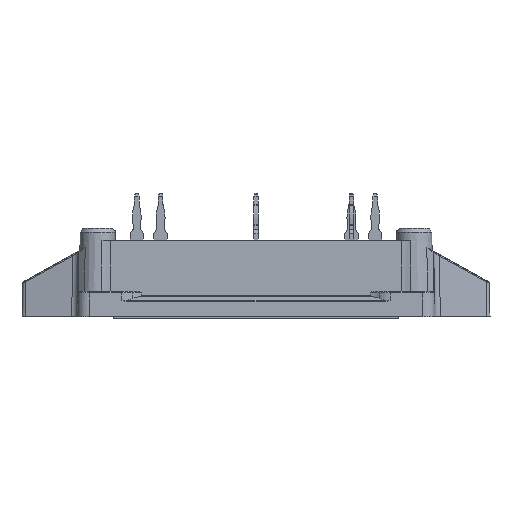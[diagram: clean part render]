
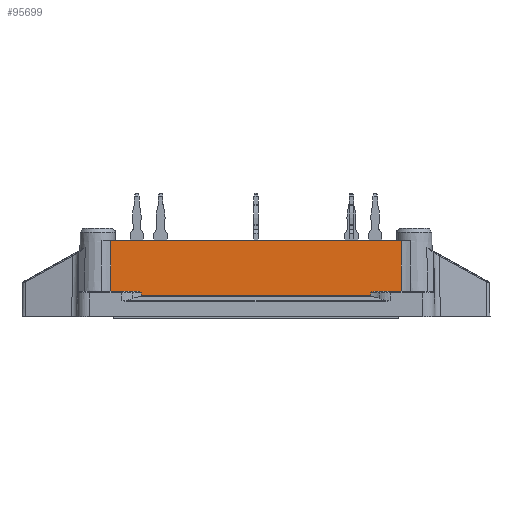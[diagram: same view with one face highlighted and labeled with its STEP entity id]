
A CAD part, front view. The second image highlights one B-rep face of the part: STEP entity #95699.
In plain terms, the highlighted planar face has unit normal (0, -1, 0.018).
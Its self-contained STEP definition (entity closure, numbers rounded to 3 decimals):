
#5358=B_SPLINE_CURVE_WITH_KNOTS('',3,(#132635,#132636,#132637,#132638),
 .UNSPECIFIED.,.F.,.F.,(4,4),(0.001,0.001),
 .UNSPECIFIED.);
#5359=B_SPLINE_CURVE_WITH_KNOTS('',3,(#132643,#132644,#132645,#132646),
 .UNSPECIFIED.,.F.,.F.,(4,4),(0.,0.001),
 .UNSPECIFIED.);
#5360=B_SPLINE_CURVE_WITH_KNOTS('',3,(#132648,#132649,#132650,#132651,#132652,
#132653,#132654,#132655),.UNSPECIFIED.,.F.,.F.,(4,1,1,1,1,4),(0.,
0.,0.,0.,0.001,
0.001),.UNSPECIFIED.);
#5361=B_SPLINE_CURVE_WITH_KNOTS('',3,(#132659,#132660,#132661,#132662),
 .UNSPECIFIED.,.F.,.F.,(4,4),(0.,0.007),.UNSPECIFIED.);
#5362=B_SPLINE_CURVE_WITH_KNOTS('',3,(#132663,#132664,#132665,#132666),
 .UNSPECIFIED.,.F.,.F.,(4,4),(0.,0.007),
 .UNSPECIFIED.);
#5363=B_SPLINE_CURVE_WITH_KNOTS('',3,(#132670,#132671,#132672,#132673,#132674,
#132675,#132676),.UNSPECIFIED.,.F.,.F.,(4,1,1,1,4),(0.,0.,
0.001,0.001,0.001),
 .UNSPECIFIED.);
#7544=ORIENTED_EDGE('',*,*,#27837,.F.);
#7545=ORIENTED_EDGE('',*,*,#27838,.T.);
#7546=ORIENTED_EDGE('',*,*,#27839,.F.);
#7547=ORIENTED_EDGE('',*,*,#27840,.T.);
#7548=ORIENTED_EDGE('',*,*,#27841,.T.);
#7549=ORIENTED_EDGE('',*,*,#27842,.T.);
#7550=ORIENTED_EDGE('',*,*,#26887,.F.);
#7551=ORIENTED_EDGE('',*,*,#27843,.T.);
#7552=ORIENTED_EDGE('',*,*,#27844,.F.);
#7553=ORIENTED_EDGE('',*,*,#27845,.T.);
#26887=EDGE_CURVE('',#37079,#37080,#42864,.T.);
#27837=EDGE_CURVE('',#37946,#37947,#5358,.T.);
#27838=EDGE_CURVE('',#37946,#37948,#43294,.T.);
#27839=EDGE_CURVE('',#37949,#37948,#5359,.T.);
#27840=EDGE_CURVE('',#37949,#37950,#5360,.T.);
#27841=EDGE_CURVE('',#37950,#37951,#43295,.T.);
#27842=EDGE_CURVE('',#37951,#37080,#5361,.T.);
#27843=EDGE_CURVE('',#37079,#37952,#5362,.T.);
#27844=EDGE_CURVE('',#37953,#37952,#43296,.T.);
#27845=EDGE_CURVE('',#37953,#37947,#5363,.T.);
#37079=VERTEX_POINT('',#130292);
#37080=VERTEX_POINT('',#130294);
#37946=VERTEX_POINT('',#132639);
#37947=VERTEX_POINT('',#132640);
#37948=VERTEX_POINT('',#132642);
#37949=VERTEX_POINT('',#132647);
#37950=VERTEX_POINT('',#132656);
#37951=VERTEX_POINT('',#132658);
#37952=VERTEX_POINT('',#132667);
#37953=VERTEX_POINT('',#132669);
#42864=LINE('',#130293,#49622);
#43294=LINE('',#132641,#50052);
#43295=LINE('',#132657,#50053);
#43296=LINE('',#132668,#50054);
#49622=VECTOR('',#108511,1000.);
#50052=VECTOR('',#109947,1000.);
#50053=VECTOR('',#109948,1000.);
#50054=VECTOR('',#109949,1000.);
#56144=EDGE_LOOP('',(#7544,#7545,#7546,#7547,#7548,#7549,#7550,#7551,#7552,
#7553));
#60510=FACE_BOUND('',#56144,.T.);
#64663=PLANE('',#100751);
#95699=ADVANCED_FACE('',(#60510),#64663,.T.);
#100751=AXIS2_PLACEMENT_3D('',#132634,#109945,#109946);
#108511=DIRECTION('',(1.,0.,0.));
#109945=DIRECTION('',(0.,-1.,0.017));
#109946=DIRECTION('',(0.,-0.017,-1.));
#109947=DIRECTION('',(1.,0.,0.));
#109948=DIRECTION('',(1.,0.,0.));
#109949=DIRECTION('',(-1.,0.,0.));
#130292=CARTESIAN_POINT('',(-19.525,-27.653,10.2));
#130293=CARTESIAN_POINT('',(-26.5,-27.653,10.2));
#130294=CARTESIAN_POINT('',(19.525,-27.653,10.2));
#132634=CARTESIAN_POINT('',(-26.5,-27.78,2.9));
#132635=CARTESIAN_POINT('',(-15.378,-27.781,2.822));
#132636=CARTESIAN_POINT('',(-15.379,-27.779,2.949));
#132637=CARTESIAN_POINT('',(-15.379,-27.777,3.076));
#132638=CARTESIAN_POINT('',(-15.379,-27.775,3.203));
#132639=CARTESIAN_POINT('',(-15.378,-27.781,2.822));
#132640=CARTESIAN_POINT('',(-15.379,-27.775,3.203));
#132641=CARTESIAN_POINT('',(-26.5,-27.781,2.822));
#132642=CARTESIAN_POINT('',(15.378,-27.781,2.822));
#132643=CARTESIAN_POINT('',(15.379,-27.775,3.203));
#132644=CARTESIAN_POINT('',(15.379,-27.777,3.076));
#132645=CARTESIAN_POINT('',(15.379,-27.779,2.949));
#132646=CARTESIAN_POINT('',(15.378,-27.781,2.822));
#132647=CARTESIAN_POINT('',(15.379,-27.775,3.203));
#132648=CARTESIAN_POINT('',(15.379,-27.775,3.203));
#132649=CARTESIAN_POINT('',(15.379,-27.774,3.235));
#132650=CARTESIAN_POINT('',(15.441,-27.773,3.274));
#132651=CARTESIAN_POINT('',(15.55,-27.773,3.32));
#132652=CARTESIAN_POINT('',(15.702,-27.772,3.361));
#132653=CARTESIAN_POINT('',(15.882,-27.771,3.392));
#132654=CARTESIAN_POINT('',(16.005,-27.771,3.4));
#132655=CARTESIAN_POINT('',(16.067,-27.771,3.4));
#132656=CARTESIAN_POINT('',(16.067,-27.771,3.4));
#132657=CARTESIAN_POINT('',(-26.5,-27.771,3.4));
#132658=CARTESIAN_POINT('',(19.511,-27.771,3.4));
#132659=CARTESIAN_POINT('',(19.511,-27.771,3.4));
#132660=CARTESIAN_POINT('',(19.516,-27.732,5.667));
#132661=CARTESIAN_POINT('',(19.521,-27.692,7.933));
#132662=CARTESIAN_POINT('',(19.525,-27.653,10.2));
#132663=CARTESIAN_POINT('',(-19.525,-27.653,10.2));
#132664=CARTESIAN_POINT('',(-19.521,-27.692,7.933));
#132665=CARTESIAN_POINT('',(-19.516,-27.732,5.667));
#132666=CARTESIAN_POINT('',(-19.511,-27.771,3.4));
#132667=CARTESIAN_POINT('',(-19.511,-27.771,3.4));
#132668=CARTESIAN_POINT('',(-26.5,-27.771,3.4));
#132669=CARTESIAN_POINT('',(-16.067,-27.771,3.4));
#132670=CARTESIAN_POINT('',(-16.067,-27.771,3.4));
#132671=CARTESIAN_POINT('',(-15.944,-27.771,3.4));
#132672=CARTESIAN_POINT('',(-15.762,-27.772,3.377));
#132673=CARTESIAN_POINT('',(-15.549,-27.773,3.32));
#132674=CARTESIAN_POINT('',(-15.44,-27.773,3.273));
#132675=CARTESIAN_POINT('',(-15.379,-27.774,3.235));
#132676=CARTESIAN_POINT('',(-15.379,-27.775,3.203));
